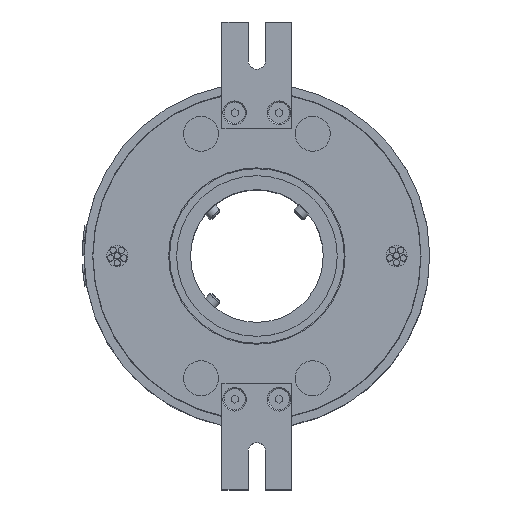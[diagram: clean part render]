
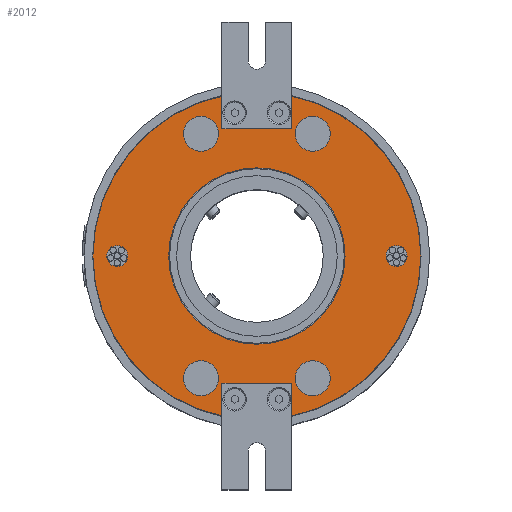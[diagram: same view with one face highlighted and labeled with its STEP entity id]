
A CAD part, top view. The second image highlights one B-rep face of the part: STEP entity #2012.
In plain terms, the highlighted planar face has unit normal (0, 0, 1).
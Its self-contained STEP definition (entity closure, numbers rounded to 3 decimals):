
#181=FACE_BOUND('',#5069,.T.);
#182=FACE_BOUND('',#5070,.T.);
#183=FACE_BOUND('',#5071,.T.);
#184=FACE_BOUND('',#5072,.T.);
#185=FACE_BOUND('',#5073,.T.);
#186=FACE_BOUND('',#5074,.T.);
#187=FACE_BOUND('',#5075,.T.);
#188=FACE_BOUND('',#5076,.T.);
#515=CIRCLE('',#17071,3.);
#516=CIRCLE('',#17073,46.95);
#517=CIRCLE('',#17074,46.95);
#518=CIRCLE('',#17075,25.25);
#519=CIRCLE('',#17076,5.);
#520=CIRCLE('',#17077,5.);
#521=CIRCLE('',#17078,5.);
#522=CIRCLE('',#17079,5.);
#523=CIRCLE('',#17080,3.);
#946=PLANE('',#17081);
#1240=LINE('',#31359,#3339);
#1241=LINE('',#31364,#3340);
#1242=LINE('',#31366,#3341);
#1243=LINE('',#31368,#3342);
#1244=LINE('',#31372,#3343);
#1245=LINE('',#31374,#3344);
#2012=ADVANCED_FACE('',(#181,#182,#183,#184,#185,#186,#187,#188),#946,.T.);
#3339=VECTOR('',#18591,1.);
#3340=VECTOR('',#18594,1.);
#3341=VECTOR('',#18595,1.);
#3342=VECTOR('',#18596,1.);
#3343=VECTOR('',#18599,1.);
#3344=VECTOR('',#18600,1.);
#5069=EDGE_LOOP('',(#7746,#7747,#7748,#7749,#7750,#7751,#7752,#7753));
#5070=EDGE_LOOP('',(#7754));
#5071=EDGE_LOOP('',(#7755));
#5072=EDGE_LOOP('',(#7756));
#5073=EDGE_LOOP('',(#7757));
#5074=EDGE_LOOP('',(#7758));
#5075=EDGE_LOOP('',(#7759));
#5076=EDGE_LOOP('',(#7760));
#7746=ORIENTED_EDGE('',*,*,#13700,.F.);
#7747=ORIENTED_EDGE('',*,*,#13701,.F.);
#7748=ORIENTED_EDGE('',*,*,#13702,.F.);
#7749=ORIENTED_EDGE('',*,*,#13703,.F.);
#7750=ORIENTED_EDGE('',*,*,#13704,.F.);
#7751=ORIENTED_EDGE('',*,*,#13705,.F.);
#7752=ORIENTED_EDGE('',*,*,#13706,.F.);
#7753=ORIENTED_EDGE('',*,*,#13707,.F.);
#7754=ORIENTED_EDGE('',*,*,#13708,.F.);
#7755=ORIENTED_EDGE('',*,*,#13709,.T.);
#7756=ORIENTED_EDGE('',*,*,#13710,.T.);
#7757=ORIENTED_EDGE('',*,*,#13711,.T.);
#7758=ORIENTED_EDGE('',*,*,#13712,.T.);
#7759=ORIENTED_EDGE('',*,*,#13713,.F.);
#7760=ORIENTED_EDGE('',*,*,#13699,.T.);
#11540=VERTEX_POINT('',#31357);
#11541=VERTEX_POINT('',#31360);
#11542=VERTEX_POINT('',#31361);
#11543=VERTEX_POINT('',#31363);
#11544=VERTEX_POINT('',#31365);
#11545=VERTEX_POINT('',#31367);
#11546=VERTEX_POINT('',#31369);
#11547=VERTEX_POINT('',#31371);
#11548=VERTEX_POINT('',#31373);
#11549=VERTEX_POINT('',#31376);
#11550=VERTEX_POINT('',#31378);
#11551=VERTEX_POINT('',#31380);
#11552=VERTEX_POINT('',#31382);
#11553=VERTEX_POINT('',#31384);
#11554=VERTEX_POINT('',#31386);
#13699=EDGE_CURVE('',#11540,#11540,#515,.T.);
#13700=EDGE_CURVE('',#11541,#11542,#1240,.T.);
#13701=EDGE_CURVE('',#11543,#11541,#516,.T.);
#13702=EDGE_CURVE('',#11544,#11543,#1241,.T.);
#13703=EDGE_CURVE('',#11545,#11544,#1242,.T.);
#13704=EDGE_CURVE('',#11546,#11545,#1243,.T.);
#13705=EDGE_CURVE('',#11547,#11546,#517,.T.);
#13706=EDGE_CURVE('',#11548,#11547,#1244,.T.);
#13707=EDGE_CURVE('',#11542,#11548,#1245,.T.);
#13708=EDGE_CURVE('',#11549,#11549,#518,.T.);
#13709=EDGE_CURVE('',#11550,#11550,#519,.T.);
#13710=EDGE_CURVE('',#11551,#11551,#520,.T.);
#13711=EDGE_CURVE('',#11552,#11552,#521,.T.);
#13712=EDGE_CURVE('',#11553,#11553,#522,.T.);
#13713=EDGE_CURVE('',#11554,#11554,#523,.T.);
#17071=AXIS2_PLACEMENT_3D('',#31356,#18587,#18588);
#17073=AXIS2_PLACEMENT_3D('',#31362,#18592,#18593);
#17074=AXIS2_PLACEMENT_3D('',#31370,#18597,#18598);
#17075=AXIS2_PLACEMENT_3D('',#31375,#18601,#18602);
#17076=AXIS2_PLACEMENT_3D('',#31377,#18603,#18604);
#17077=AXIS2_PLACEMENT_3D('',#31379,#18605,#18606);
#17078=AXIS2_PLACEMENT_3D('',#31381,#18607,#18608);
#17079=AXIS2_PLACEMENT_3D('',#31383,#18609,#18610);
#17080=AXIS2_PLACEMENT_3D('',#31385,#18611,#18612);
#17081=AXIS2_PLACEMENT_3D('',#31387,#18613,#18614);
#18587=DIRECTION('',(0.,0.,-1.));
#18588=DIRECTION('',(-0.866,-0.5,0.));
#18591=DIRECTION('',(0.,-1.,0.));
#18592=DIRECTION('',(0.,0.,-1.));
#18593=DIRECTION('',(1.,0.,0.));
#18594=DIRECTION('',(0.,-1.,0.));
#18595=DIRECTION('',(-1.,0.,0.));
#18596=DIRECTION('',(0.,1.,0.));
#18597=DIRECTION('',(0.,0.,-1.));
#18598=DIRECTION('',(1.,0.,0.));
#18599=DIRECTION('',(0.,1.,0.));
#18600=DIRECTION('',(1.,0.,0.));
#18601=DIRECTION('',(0.,0.,1.));
#18602=DIRECTION('',(1.,0.,0.));
#18603=DIRECTION('',(0.,0.,-1.));
#18604=DIRECTION('',(1.,0.,0.));
#18605=DIRECTION('',(0.,0.,-1.));
#18606=DIRECTION('',(-1.,0.,0.));
#18607=DIRECTION('',(0.,0.,-1.));
#18608=DIRECTION('',(1.,0.,0.));
#18609=DIRECTION('',(0.,0.,-1.));
#18610=DIRECTION('',(-1.,0.,0.));
#18611=DIRECTION('',(0.,0.,1.));
#18612=DIRECTION('',(0.866,-0.5,0.));
#18613=DIRECTION('',(0.,0.,1.));
#18614=DIRECTION('',(1.,0.,0.));
#31356=CARTESIAN_POINT('',(-40.,0.,80.5));
#31357=CARTESIAN_POINT('',(-42.598,-1.5,80.5));
#31359=CARTESIAN_POINT('',(-10.,51.75,80.5));
#31360=CARTESIAN_POINT('',(-10.,45.873,80.5));
#31361=CARTESIAN_POINT('',(-10.,36.5,80.5));
#31362=CARTESIAN_POINT('',(0.,0.,80.5));
#31363=CARTESIAN_POINT('',(-10.,-45.873,80.5));
#31364=CARTESIAN_POINT('',(-10.,-51.75,80.5));
#31365=CARTESIAN_POINT('',(-10.,-36.5,80.5));
#31366=CARTESIAN_POINT('',(0.,-36.5,80.5));
#31367=CARTESIAN_POINT('',(10.,-36.5,80.5));
#31368=CARTESIAN_POINT('',(10.,-51.75,80.5));
#31369=CARTESIAN_POINT('',(10.,-45.873,80.5));
#31370=CARTESIAN_POINT('',(0.,0.,80.5));
#31371=CARTESIAN_POINT('',(10.,45.873,80.5));
#31372=CARTESIAN_POINT('',(10.,51.75,80.5));
#31373=CARTESIAN_POINT('',(10.,36.5,80.5));
#31374=CARTESIAN_POINT('',(0.,36.5,80.5));
#31375=CARTESIAN_POINT('',(0.,0.,80.5));
#31376=CARTESIAN_POINT('',(25.25,0.,80.5));
#31377=CARTESIAN_POINT('',(16.,35.,80.5));
#31378=CARTESIAN_POINT('',(21.,35.,80.5));
#31379=CARTESIAN_POINT('',(-16.,-35.,80.5));
#31380=CARTESIAN_POINT('',(-21.,-35.,80.5));
#31381=CARTESIAN_POINT('',(-16.,35.,80.5));
#31382=CARTESIAN_POINT('',(-11.,35.,80.5));
#31383=CARTESIAN_POINT('',(16.,-35.,80.5));
#31384=CARTESIAN_POINT('',(11.,-35.,80.5));
#31385=CARTESIAN_POINT('',(40.,0.,80.5));
#31386=CARTESIAN_POINT('',(42.598,-1.5,80.5));
#31387=CARTESIAN_POINT('',(0.,0.,80.5));
